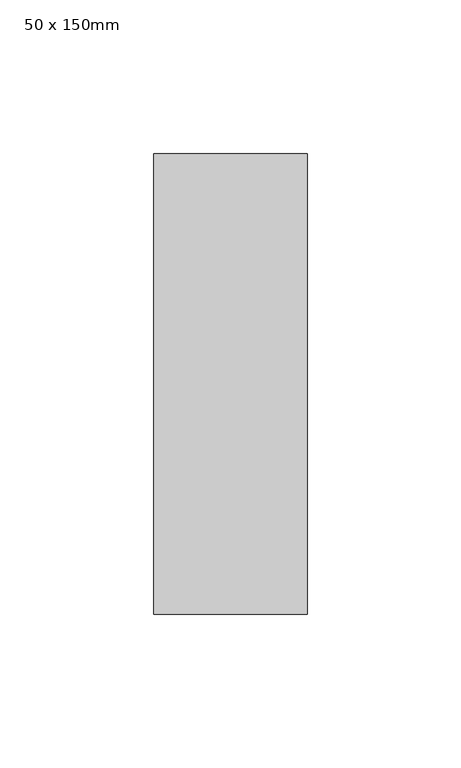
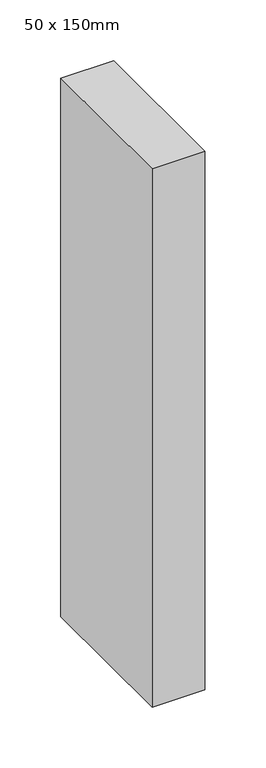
"""IFC4 building model written with IfcOpenShell, lengths in millimetres: member geometry, Прямоугольный импост : 50 x 150mm."""

from ifc_helpers import new_model, si_unit, frame, origin, place, context, project, spatial, polyline, outline, extrude, source, transform, mapped, element, save


def member_50_x_150mm_8f37db85(model_context):
    return source(origin(), model_context, "Body", "SweptSolid", [
        extrude(outline(polyline([(0.0, 75.0), (0.0, -75.0), (-50.0, -75.0), (-50.0, 75.0), (0.0, 75.0)])), frame((0.0, 0.0, -540.0), z_axis=(0.0, 0.0, 1.0), x_axis=(1.0, 0.0, 0.0)), (0.0, 0.0, 1.0), 540.0),
    ])


if __name__ == "__main__":
    model = new_model("IFC4")
    model_context = context("Model", 3, world=origin())
    ifc_project = project(units=[si_unit("LENGTHUNIT", "METRE", prefix="MILLI")], contexts=[model_context])
    site = spatial("IfcSite", under=ifc_project)
    building = spatial("IfcBuilding", under=site)
    placement = place(None, origin())
    member_50_x_150mm_shape = member_50_x_150mm_8f37db85(model_context)
    element("IfcMember", 1, ObjectType="Прямоугольный импост : 50 x 150mm", at=placement, inside=building, context=model_context, shape_type="MappedRepresentation", body=[
        mapped(member_50_x_150mm_shape, transform((0.0, 0.0, 0.0), x_axis=(1.0, 0.0, 0.0), y_axis=(0.0, 1.0, 0.0), z_axis=(0.0, 0.0, 1.0))),
    ])
    save(model, "model.ifc")
